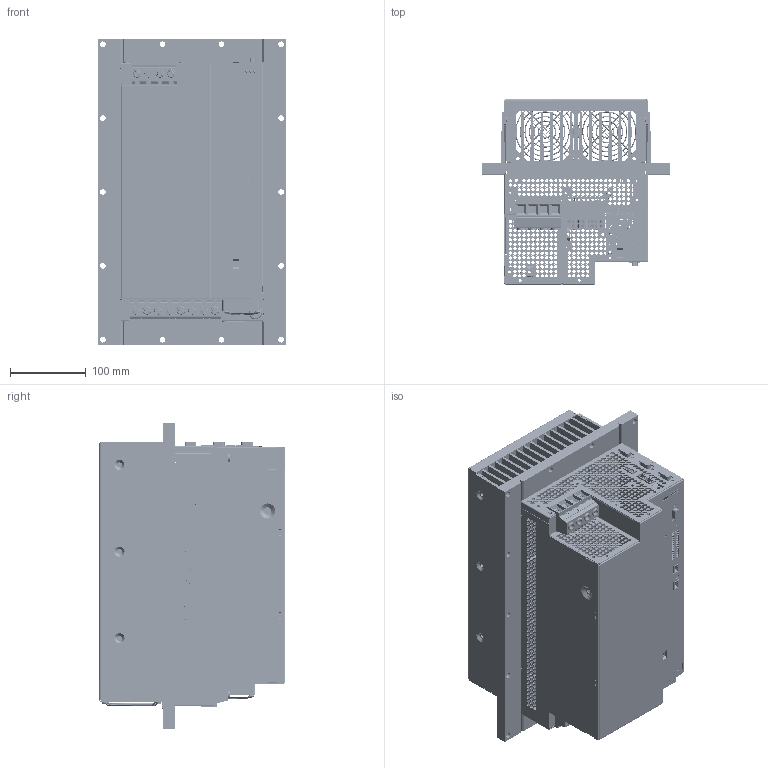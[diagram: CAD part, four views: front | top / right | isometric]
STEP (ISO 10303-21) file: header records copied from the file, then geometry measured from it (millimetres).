
FILE_DESCRIPTION (( 'STEP AP214' ), '1' );
FILE_NAME ('c-line BG6 Durchsteckvariante.STEP', '2013-08-28T07:25:20', ( '' ), ( '' ), 'SwSTEP 2.0', 'SolidWorks 2012', '' );
FILE_SCHEMA (( 'AUTOMOTIVE_DESIGN' ));
Length unit declared in the file: millimetre
Products named in the file (20): C-line BG6 Gehäuse; Stecker 4pol; Stecker 2pol; Steuerprint CDE; 183_-01366-; 183_-01497-; 183_-01363G; 062-03986 Schutzgitter SC50-W1; 062-03761 Lüfter 50x50x15mm; 183_-01494-; 183_-01364-; Servo one BG5 Leistungsklemmen; 183-01465 Bezeichnungsstreifen; 183-01466 Bezeichnungsstreifen; MKDSP25-8-15; MKDSP25-4-15; 111871 Lüftergitter 80x80mm; 183_-01529-; 183_-01665-; c-line BG6 Durchsteckvariante
Assembly tree (21 placements, depth 4):
  c-line BG6 Durchsteckvariante
    183_-01665-
    183_-01529-
    111871 Lüftergitter 80x80mm  x2
    C-line BG6 Gehäuse
      Servo one BG5 Leistungsklemmen
        MKDSP25-4-15
        MKDSP25-8-15
        183-01466 Bezeichnungsstreifen
        183-01465 Bezeichnungsstreifen
      183_-01364-
      183_-01494-
      062-03761 Lüfter 50x50x15mm
      062-03986 Schutzgitter SC50-W1
      183_-01363G
      183_-01497-
      183_-01366-
      Steuerprint CDE
      Stecker 2pol  x2
      Stecker 4pol
Bounding box: 250 x 246 x 405 mm (x, y, z)
Volume: 3310559.9 mm3; surface area: 1658398.8 mm2
Topology: 23 solids, 23 shells, 6991 faces, 19284 edges, 12643 vertices
Faces by surface type: plane 3324, bspline 2139, cylinder 1227, torus 148, cone 146, sphere 7
Entity records: 275447 total; most frequent: CARTESIAN_POINT 98875, ORIENTED_EDGE 37342, DIRECTION 23707, EDGE_CURVE 18671, VERTEX_POINT 12274, EDGE_LOOP 9433, LINE 9227, VECTOR 9227
